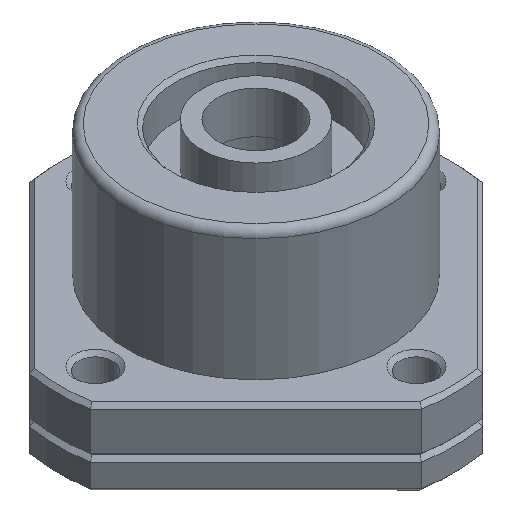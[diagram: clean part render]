
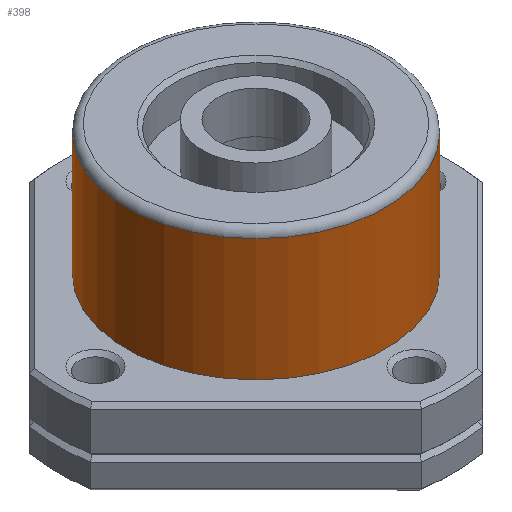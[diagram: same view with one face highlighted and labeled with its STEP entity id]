
A CAD part, isometric view. The second image highlights one B-rep face of the part: STEP entity #398.
In plain terms, the highlighted cylindrical face has radius 17 mm (diameter 34 mm), a full revolution.
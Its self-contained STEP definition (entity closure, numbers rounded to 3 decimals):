
#314=CYLINDRICAL_SURFACE('',#2110,17.);
#398=ADVANCED_FACE('',(#709,#710),#314,.T.);
#709=FACE_BOUND('',#907,.T.);
#710=FACE_BOUND('',#908,.T.);
#907=EDGE_LOOP('',(#1257));
#908=EDGE_LOOP('',(#1258));
#1257=ORIENTED_EDGE('',*,*,#1768,.T.);
#1258=ORIENTED_EDGE('',*,*,#1763,.F.);
#1562=VERTEX_POINT('',#3130);
#1567=VERTEX_POINT('',#3145);
#1763=EDGE_CURVE('GENERATED CIRCLE',#1562,#1562,#1924,.T.);
#1768=EDGE_CURVE('GENERATED CIRCLE',#1567,#1567,#1929,.T.);
#1924=CIRCLE('',#2099,17.);
#1929=CIRCLE('',#2109,17.);
#2099=AXIS2_PLACEMENT_3D('',#3129,#2509,#2510);
#2109=AXIS2_PLACEMENT_3D('',#3144,#2529,#2530);
#2110=AXIS2_PLACEMENT_3D('',#3146,#2531,#2532);
#2509=DIRECTION('',(0.,0.,1.));
#2510=DIRECTION('',(1.,0.,0.));
#2529=DIRECTION('',(0.,0.,1.));
#2530=DIRECTION('',(1.,0.,0.));
#2531=DIRECTION('',(0.,0.,1.));
#2532=DIRECTION('',(-0.479,0.878,0.));
#3129=CARTESIAN_POINT('',(0.,0.,22.));
#3130=CARTESIAN_POINT('',(17.,0.,22.));
#3144=CARTESIAN_POINT('',(0.,0.,6.));
#3145=CARTESIAN_POINT('',(17.,0.,6.));
#3146=CARTESIAN_POINT('',(0.,0.,11.5));
